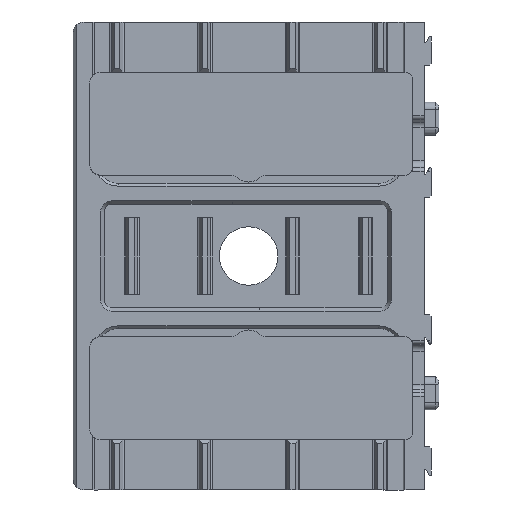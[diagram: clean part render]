
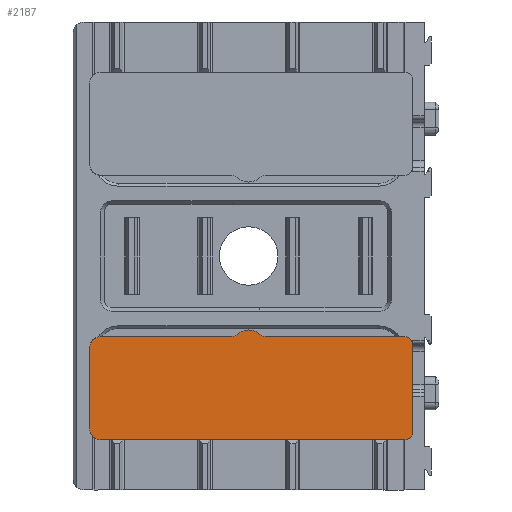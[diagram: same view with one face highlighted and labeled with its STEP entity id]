
A CAD part, front view. The second image highlights one B-rep face of the part: STEP entity #2187.
In plain terms, the highlighted planar face has unit normal (0, -1, 0).
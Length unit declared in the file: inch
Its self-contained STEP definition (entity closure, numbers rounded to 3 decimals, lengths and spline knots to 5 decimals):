
#45 = CARTESIAN_POINT ( 'NONE',  ( 2.48437, 0.005, -1.38125 ) ) ;
#77 = DIRECTION ( 'NONE',  ( 0., 0., 1. ) ) ;
#219 = VERTEX_POINT ( 'NONE', #3914 ) ;
#276 = DIRECTION ( 'NONE',  ( 0., -1., 0. ) ) ;
#388 = CARTESIAN_POINT ( 'NONE',  ( -0.1875, 0.005, -1.56425 ) ) ;
#469 = DIRECTION ( 'NONE',  ( -1., 0., 0. ) ) ;
#570 = VERTEX_POINT ( 'NONE', #2448 ) ;
#773 = VERTEX_POINT ( 'NONE', #45 ) ;
#864 = EDGE_CURVE ( 'NONE', #3655, #1961, #5238, .T. ) ;
#871 = DIRECTION ( 'NONE',  ( 0., 1., 0. ) ) ;
#875 = ORIENTED_EDGE ( 'NONE', *, *, #5673, .T. ) ;
#1156 = ORIENTED_EDGE ( 'NONE', *, *, #9022, .T. ) ;
#1177 = AXIS2_PLACEMENT_3D ( 'NONE', #8013, #276, #3890 ) ;
#1528 = PLANE ( 'NONE',  #4514 ) ;
#1552 = ORIENTED_EDGE ( 'NONE', *, *, #4368, .F. ) ;
#1574 = LINE ( 'NONE', #1756, #3958 ) ;
#1709 = CIRCLE ( 'NONE', #8036, 0.2 ) ;
#1712 = VECTOR ( 'NONE', #469, 39.37008 ) ;
#1729 = VECTOR ( 'NONE', #4289, 39.37008 ) ;
#1756 = CARTESIAN_POINT ( 'NONE',  ( 2.0625, 0.005, -3.14375 ) ) ;
#1783 = VERTEX_POINT ( 'NONE', #4821 ) ;
#1849 = AXIS2_PLACEMENT_3D ( 'NONE', #388, #3484, #4178 ) ;
#1878 = DIRECTION ( 'NONE',  ( 0., 1., 0. ) ) ;
#1961 = VERTEX_POINT ( 'NONE', #7299 ) ;
#2053 = CARTESIAN_POINT ( 'NONE',  ( 2.61437, 0.005, -3.01375 ) ) ;
#2117 = VERTEX_POINT ( 'NONE', #4105 ) ;
#2158 = ORIENTED_EDGE ( 'NONE', *, *, #7893, .T. ) ;
#2187 = ADVANCED_FACE ( 'NONE', ( #2359 ), #1528, .F. ) ;
#2270 = DIRECTION ( 'NONE',  ( 0., 1., 0. ) ) ;
#2359 = FACE_OUTER_BOUND ( 'NONE', #8270, .T. ) ;
#2448 = CARTESIAN_POINT ( 'NONE',  ( 0.00535, 0.005, -1.33445 ) ) ;
#2474 = VERTEX_POINT ( 'NONE', #3273 ) ;
#2502 = CARTESIAN_POINT ( 'NONE',  ( -0.50892, 0.005, -1.38125 ) ) ;
#2523 = CARTESIAN_POINT ( 'NONE',  ( -2.71875, 0.005, -1.38125 ) ) ;
#2556 = VERTEX_POINT ( 'NONE', #6460 ) ;
#2559 = CARTESIAN_POINT ( 'NONE',  ( -2.90625, 0.005, -2.95625 ) ) ;
#2674 = ORIENTED_EDGE ( 'NONE', *, *, #6002, .F. ) ;
#2919 = CARTESIAN_POINT ( 'NONE',  ( -2.71875, 0.005, -2.95625 ) ) ;
#3273 = CARTESIAN_POINT ( 'NONE',  ( 2.61437, 0.005, -1.51125 ) ) ;
#3326 = EDGE_CURVE ( 'NONE', #1961, #2556, #6815, .T. ) ;
#3484 = DIRECTION ( 'NONE',  ( 0., -1., 0. ) ) ;
#3613 = CARTESIAN_POINT ( 'NONE',  ( 2.48437, 0.005, -3.01375 ) ) ;
#3655 = VERTEX_POINT ( 'NONE', #2523 ) ;
#3705 = DIRECTION ( 'NONE',  ( 0., 0., 1. ) ) ;
#3727 = CARTESIAN_POINT ( 'NONE',  ( 2.0625, 0.005, -2.64153 ) ) ;
#3792 = AXIS2_PLACEMENT_3D ( 'NONE', #7295, #5691, #77 ) ;
#3890 = DIRECTION ( 'NONE',  ( 0., 0., 1. ) ) ;
#3914 = CARTESIAN_POINT ( 'NONE',  ( 2.61437, 0.005, -3.01375 ) ) ;
#3958 = VECTOR ( 'NONE', #8856, 39.37008 ) ;
#4105 = CARTESIAN_POINT ( 'NONE',  ( 0.13392, 0.005, -1.38125 ) ) ;
#4178 = DIRECTION ( 'NONE',  ( 0., 0., 1. ) ) ;
#4256 = VECTOR ( 'NONE', #5684, 39.37008 ) ;
#4289 = DIRECTION ( 'NONE',  ( -1., 0., 0. ) ) ;
#4368 = EDGE_CURVE ( 'NONE', #2474, #219, #7005, .T. ) ;
#4465 = DIRECTION ( 'NONE',  ( 0., 0., 1. ) ) ;
#4514 = AXIS2_PLACEMENT_3D ( 'NONE', #3727, #2270, #4529 ) ;
#4529 = DIRECTION ( 'NONE',  ( 0., 0., 1. ) ) ;
#4546 = ORIENTED_EDGE ( 'NONE', *, *, #6432, .F. ) ;
#4586 = VERTEX_POINT ( 'NONE', #2502 ) ;
#4707 = CIRCLE ( 'NONE', #1849, 0.3 ) ;
#4708 = CIRCLE ( 'NONE', #5469, 0.1875 ) ;
#4726 = VERTEX_POINT ( 'NONE', #5007 ) ;
#4749 = LINE ( 'NONE', #7630, #1712 ) ;
#4821 = CARTESIAN_POINT ( 'NONE',  ( -2.71875, 0.005, -3.14375 ) ) ;
#4994 = LINE ( 'NONE', #5707, #1729 ) ;
#5007 = CARTESIAN_POINT ( 'NONE',  ( -0.38035, 0.005, -1.33445 ) ) ;
#5079 = DIRECTION ( 'NONE',  ( 0., 1., 0. ) ) ;
#5238 = CIRCLE ( 'NONE', #1177, 0.1875 ) ;
#5345 = ORIENTED_EDGE ( 'NONE', *, *, #6993, .T. ) ;
#5417 = EDGE_CURVE ( 'NONE', #2556, #1783, #4708, .T. ) ;
#5469 = AXIS2_PLACEMENT_3D ( 'NONE', #2919, #6608, #5799 ) ;
#5476 = AXIS2_PLACEMENT_3D ( 'NONE', #6603, #5079, #4465 ) ;
#5673 = EDGE_CURVE ( 'NONE', #2117, #570, #1709, .T. ) ;
#5684 = DIRECTION ( 'NONE',  ( 0., 0., -1. ) ) ;
#5691 = DIRECTION ( 'NONE',  ( 0., 1., 0. ) ) ;
#5707 = CARTESIAN_POINT ( 'NONE',  ( -2.71875, 0.005, -1.38125 ) ) ;
#5786 = CIRCLE ( 'NONE', #5476, 0.2 ) ;
#5799 = DIRECTION ( 'NONE',  ( 0., 0., 1. ) ) ;
#5918 = CARTESIAN_POINT ( 'NONE',  ( 2.48437, 0.005, -3.14375 ) ) ;
#6002 = EDGE_CURVE ( 'NONE', #219, #6077, #8498, .T. ) ;
#6039 = VECTOR ( 'NONE', #6051, 39.37008 ) ;
#6051 = DIRECTION ( 'NONE',  ( 0., 0., -1. ) ) ;
#6077 = VERTEX_POINT ( 'NONE', #5918 ) ;
#6168 = ORIENTED_EDGE ( 'NONE', *, *, #3326, .T. ) ;
#6432 = EDGE_CURVE ( 'NONE', #773, #2474, #7284, .T. ) ;
#6460 = CARTESIAN_POINT ( 'NONE',  ( -2.90625, 0.005, -2.95625 ) ) ;
#6603 = CARTESIAN_POINT ( 'NONE',  ( -0.50892, 0.005, -1.18125 ) ) ;
#6608 = DIRECTION ( 'NONE',  ( 0., -1., 0. ) ) ;
#6815 = LINE ( 'NONE', #2559, #6039 ) ;
#6993 = EDGE_CURVE ( 'NONE', #1783, #6077, #1574, .T. ) ;
#7005 = LINE ( 'NONE', #2053, #4256 ) ;
#7150 = EDGE_CURVE ( 'NONE', #570, #4726, #4707, .T. ) ;
#7284 = CIRCLE ( 'NONE', #3792, 0.13 ) ;
#7295 = CARTESIAN_POINT ( 'NONE',  ( 2.48437, 0.005, -1.51125 ) ) ;
#7299 = CARTESIAN_POINT ( 'NONE',  ( -2.90625, 0.005, -1.56875 ) ) ;
#7630 = CARTESIAN_POINT ( 'NONE',  ( -2.71875, 0.005, -1.38125 ) ) ;
#7653 = EDGE_CURVE ( 'NONE', #773, #2117, #4749, .T. ) ;
#7812 = ORIENTED_EDGE ( 'NONE', *, *, #5417, .T. ) ;
#7893 = EDGE_CURVE ( 'NONE', #4726, #4586, #5786, .T. ) ;
#7897 = AXIS2_PLACEMENT_3D ( 'NONE', #3613, #871, #3705 ) ;
#7953 = ORIENTED_EDGE ( 'NONE', *, *, #7653, .T. ) ;
#8013 = CARTESIAN_POINT ( 'NONE',  ( -2.71875, 0.005, -1.56875 ) ) ;
#8036 = AXIS2_PLACEMENT_3D ( 'NONE', #8287, #1878, #8155 ) ;
#8155 = DIRECTION ( 'NONE',  ( 0., 0., 1. ) ) ;
#8270 = EDGE_LOOP ( 'NONE', ( #1552, #4546, #7953, #875, #8349, #2158, #1156, #8389, #6168, #7812, #5345, #2674 ) ) ;
#8287 = CARTESIAN_POINT ( 'NONE',  ( 0.13392, 0.005, -1.18125 ) ) ;
#8349 = ORIENTED_EDGE ( 'NONE', *, *, #7150, .T. ) ;
#8389 = ORIENTED_EDGE ( 'NONE', *, *, #864, .T. ) ;
#8498 = CIRCLE ( 'NONE', #7897, 0.13 ) ;
#8856 = DIRECTION ( 'NONE',  ( 1., 0., 0. ) ) ;
#9022 = EDGE_CURVE ( 'NONE', #4586, #3655, #4994, .T. ) ;
